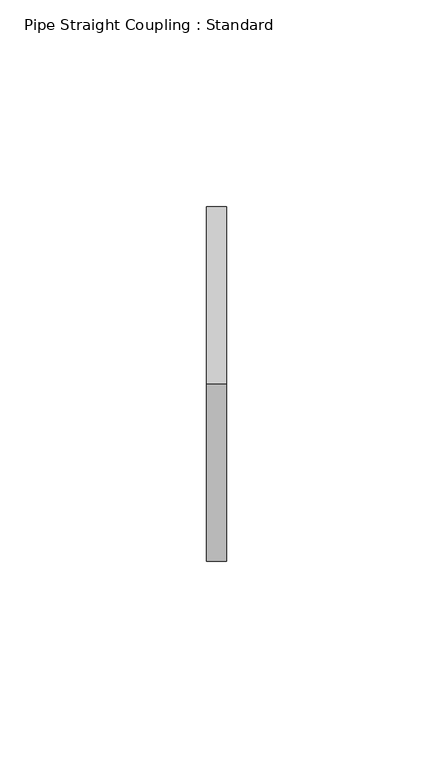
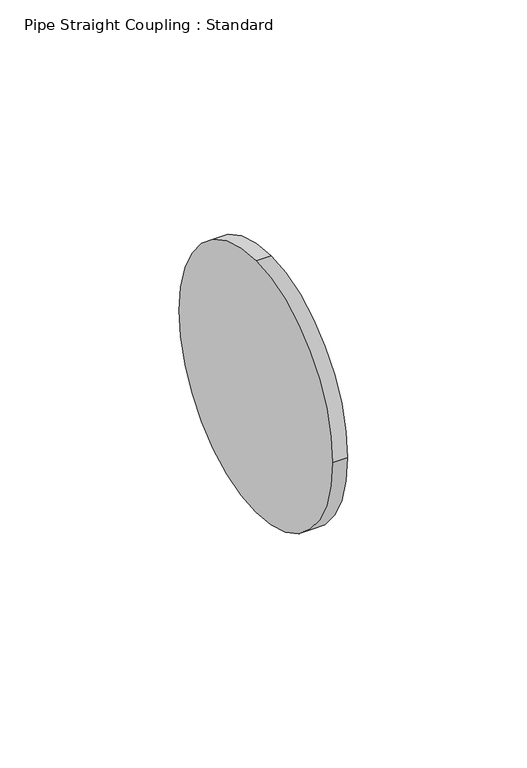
"""IFC4 building model written with IfcOpenShell, lengths in millimetres: pipe fitting geometry, Pipe Straight Coupling : Standard."""

from ifc_helpers import new_model, si_unit, point, frame, origin, origin_2d, place, context, project, spatial, circle_curve, trimmed, segment, composite_curve, outline, extrude, source, transform, mapped, element, save


def pipe_straight_coupling_standard_b5fcd073(model_context):
    return source(origin(), model_context, "Body", "SweptSolid", [
        extrude(outline(composite_curve([segment(trimmed(circle_curve(origin_2d(), 42.8625), [point((0.0, 42.8625))], [point((42.8625, 0.0))], False, "CARTESIAN"), True, "CONTINUOUS"), segment(trimmed(circle_curve(origin_2d(), 42.8625), [point((42.8625, 0.0))], [point((0.0, -42.8625))], False, "CARTESIAN"), True, "CONTINUOUS"), segment(trimmed(circle_curve(origin_2d(), 42.8625), [point((0.0, -42.8625))], [point((-42.8625, 0.0))], False, "CARTESIAN"), True, "CONTINUOUS"), segment(trimmed(circle_curve(origin_2d(), 42.8625), [point((-42.8625, 0.0))], [point((0.0, 42.8625))], False, "CARTESIAN"), True, "CONTINUOUS")], self_intersect=False)), frame((-2.413, 0.0, 0.0), z_axis=(1.0, 0.0, 0.0), x_axis=(0.0, 1.0, 0.0)), (0.0, 0.0, 1.0), 4.826),
        extrude(outline(composite_curve([segment(trimmed(circle_curve(origin_2d(), 42.8625), [point((0.0, 42.8625))], [point((42.8625, 0.0))], False, "CARTESIAN"), True, "CONTINUOUS"), segment(trimmed(circle_curve(origin_2d(), 42.8625), [point((42.8625, 0.0))], [point((0.0, -42.8625))], False, "CARTESIAN"), True, "CONTINUOUS"), segment(trimmed(circle_curve(origin_2d(), 42.8625), [point((0.0, -42.8625))], [point((-42.8625, 0.0))], False, "CARTESIAN"), True, "CONTINUOUS"), segment(trimmed(circle_curve(origin_2d(), 42.8625), [point((-42.8625, 0.0))], [point((0.0, 42.8625))], False, "CARTESIAN"), True, "CONTINUOUS")], self_intersect=False)), frame((-2.413, 0.0, 0.0), z_axis=(1.0, 0.0, 0.0), x_axis=(0.0, 1.0, 0.0)), (0.0, 0.0, 1.0), 4.826),
    ])


if __name__ == "__main__":
    model = new_model("IFC4")
    model_context = context("Model", 3, world=origin())
    ifc_project = project(units=[si_unit("LENGTHUNIT", "METRE", prefix="MILLI")], contexts=[model_context])
    site = spatial("IfcSite", under=ifc_project)
    building = spatial("IfcBuilding", under=site)
    placement = place(None, origin())
    pipe_straight_coupling_standard_shape = pipe_straight_coupling_standard_b5fcd073(model_context)
    element("IfcPipeFitting", 1, ObjectType="Pipe Straight Coupling : Standard", at=placement, inside=building, context=model_context, shape_type="MappedRepresentation", body=[
        mapped(pipe_straight_coupling_standard_shape, transform((0.0, 0.0, 0.0), x_axis=(1.0, 0.0, 0.0), y_axis=(0.0, 1.0, 0.0), z_axis=(0.0, 0.0, 1.0))),
    ])
    save(model, "model.ifc")
